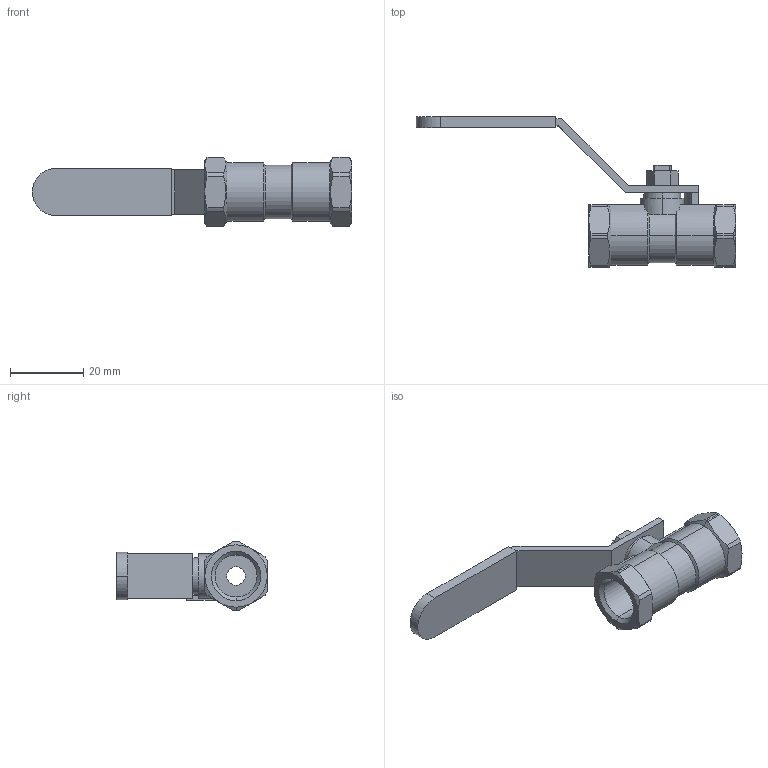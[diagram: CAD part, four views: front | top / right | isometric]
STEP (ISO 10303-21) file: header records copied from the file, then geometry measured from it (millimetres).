
FILE_DESCRIPTION (( 'STEP AP203' ), '1' );
FILE_NAME ('A3.622I007XFVPB0.STEP', '2018-11-06T07:40:31', ( '' ), ( '' ), 'SwSTEP 2.0', 'SolidWorks 2014', '' );
FILE_SCHEMA (( 'CONFIG_CONTROL_DESIGN' ));
Length unit declared in the file: millimetre
Products named in the file (1): A3.622I007XFVPB0
Bounding box: 87 x 41 x 19 mm (x, y, z)
Volume: 9207.5 mm3; surface area: 6361.9 mm2
Topology: 1 solids, 1 shells, 123 faces, 311 edges, 197 vertices
Faces by surface type: plane 53, cylinder 40, cone 30
Entity records: 3941 total; most frequent: CARTESIAN_POINT 940, ORIENTED_EDGE 622, DIRECTION 603, EDGE_CURVE 311, AXIS2_PLACEMENT_3D 230, VERTEX_POINT 197, VECTOR 143, LINE 143
